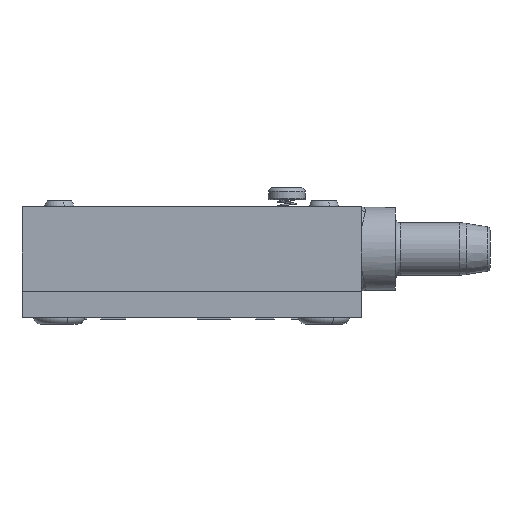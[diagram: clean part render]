
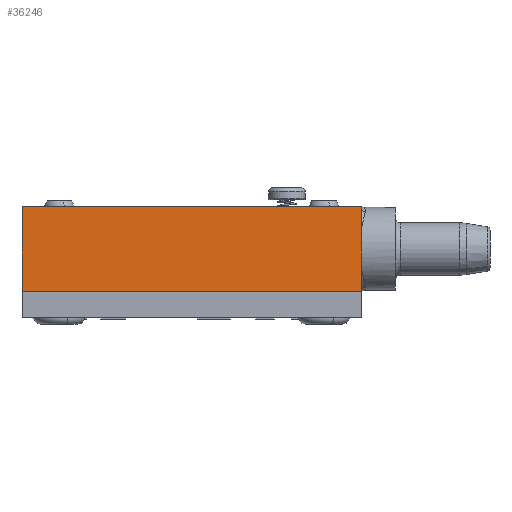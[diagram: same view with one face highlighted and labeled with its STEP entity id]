
A CAD part, front view. The second image highlights one B-rep face of the part: STEP entity #36246.
In plain terms, the highlighted planar face has unit normal (0, -1, 0).
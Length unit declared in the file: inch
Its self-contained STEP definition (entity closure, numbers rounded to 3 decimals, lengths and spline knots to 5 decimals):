
#37 = FACE_OUTER_BOUND ( 'NONE', #33514, .T. ) ;
#1231 = VECTOR ( 'NONE', #7907, 39.37008 ) ;
#1235 = ORIENTED_EDGE ( 'NONE', *, *, #14635, .F. ) ;
#3127 = ORIENTED_EDGE ( 'NONE', *, *, #29039, .T. ) ;
#3383 = CARTESIAN_POINT ( 'NONE',  ( -0.54854, -0.49439, -0.1032 ) ) ;
#4171 = VECTOR ( 'NONE', #23800, 39.37008 ) ;
#4847 = CARTESIAN_POINT ( 'NONE',  ( 0.45146, -0.49439, 0.1468 ) ) ;
#7635 = DIRECTION ( 'NONE',  ( 1., 0., 0. ) ) ;
#7907 = DIRECTION ( 'NONE',  ( 0., 0., -1. ) ) ;
#8094 = EDGE_CURVE ( 'NONE', #34706, #36073, #39533, .T. ) ;
#9279 = VERTEX_POINT ( 'NONE', #18097 ) ;
#12301 = LINE ( 'NONE', #20732, #4171 ) ;
#14635 = EDGE_CURVE ( 'NONE', #9279, #23935, #33319, .T. ) ;
#15113 = VECTOR ( 'NONE', #7635, 39.37008 ) ;
#16345 = CARTESIAN_POINT ( 'NONE',  ( 0.45146, -0.49439, -0.1032 ) ) ;
#17786 = PLANE ( 'NONE',  #24723 ) ;
#18097 = CARTESIAN_POINT ( 'NONE',  ( -0.54854, -0.49439, 0.1468 ) ) ;
#20067 = CARTESIAN_POINT ( 'NONE',  ( 0.45146, -0.49439, 0.1468 ) ) ;
#20254 = CARTESIAN_POINT ( 'NONE',  ( 0.45146, -0.49439, 0.1468 ) ) ;
#20732 = CARTESIAN_POINT ( 'NONE',  ( -0.54854, -0.49439, 0.1468 ) ) ;
#20883 = DIRECTION ( 'NONE',  ( -1., 0., 0. ) ) ;
#23800 = DIRECTION ( 'NONE',  ( 0., 0., -1. ) ) ;
#23935 = VERTEX_POINT ( 'NONE', #38230 ) ;
#24723 = AXIS2_PLACEMENT_3D ( 'NONE', #20067, #39199, #20883 ) ;
#25228 = VECTOR ( 'NONE', #38570, 39.37008 ) ;
#29039 = EDGE_CURVE ( 'NONE', #9279, #34706, #12301, .T. ) ;
#31321 = EDGE_CURVE ( 'NONE', #23935, #36073, #38987, .T. ) ;
#33319 = LINE ( 'NONE', #20254, #25228 ) ;
#33514 = EDGE_LOOP ( 'NONE', ( #38131, #39102, #1235, #3127 ) ) ;
#34706 = VERTEX_POINT ( 'NONE', #3383 ) ;
#36073 = VERTEX_POINT ( 'NONE', #16345 ) ;
#36246 = ADVANCED_FACE ( 'NONE', ( #37 ), #17786, .F. ) ;
#38119 = CARTESIAN_POINT ( 'NONE',  ( 0.45146, -0.49439, -0.1032 ) ) ;
#38131 = ORIENTED_EDGE ( 'NONE', *, *, #8094, .T. ) ;
#38230 = CARTESIAN_POINT ( 'NONE',  ( 0.45146, -0.49439, 0.1468 ) ) ;
#38570 = DIRECTION ( 'NONE',  ( 1., 0., 0. ) ) ;
#38987 = LINE ( 'NONE', #4847, #1231 ) ;
#39102 = ORIENTED_EDGE ( 'NONE', *, *, #31321, .F. ) ;
#39199 = DIRECTION ( 'NONE',  ( 0., 1., 0. ) ) ;
#39533 = LINE ( 'NONE', #38119, #15113 ) ;
